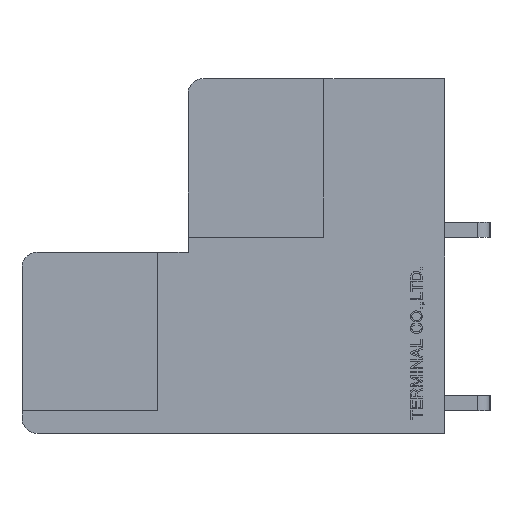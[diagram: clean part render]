
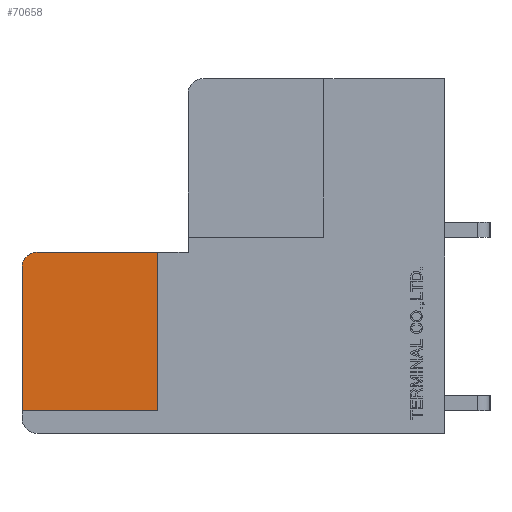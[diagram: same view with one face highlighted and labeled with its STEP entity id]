
A CAD part, left-side view. The second image highlights one B-rep face of the part: STEP entity #70658.
In plain terms, the highlighted planar face has unit normal (-1, 0, 0).
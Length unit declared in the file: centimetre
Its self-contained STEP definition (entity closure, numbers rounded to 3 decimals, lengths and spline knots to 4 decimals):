
#2711=VECTOR('',#75651,1.);
#2712=VECTOR('',#75652,1.);
#2713=VECTOR('',#75653,1.);
#2714=VECTOR('',#75654,1.);
#10738=LINE('',#89376,#2711);
#10739=LINE('',#89379,#2712);
#10740=LINE('',#89380,#2713);
#10741=LINE('',#89382,#2714);
#18560=PLANE('',#116200);
#21385=CIRCLE('',#116199,0.1);
#22393=VERTEX_POINT('',#89371);
#22394=VERTEX_POINT('',#89373);
#22395=VERTEX_POINT('',#89377);
#22396=VERTEX_POINT('',#89378);
#22397=VERTEX_POINT('',#89381);
#29866=EDGE_CURVE('',#22393,#22394,#21385,.T.);
#29868=EDGE_CURVE('',#22395,#22396,#10738,.T.);
#29869=EDGE_CURVE('',#22394,#22395,#10739,.T.);
#29870=EDGE_CURVE('',#22397,#22393,#10740,.T.);
#29871=EDGE_CURVE('',#22396,#22397,#10741,.T.);
#41000=ORIENTED_EDGE('',*,*,#29868,.F.);
#41001=ORIENTED_EDGE('',*,*,#29869,.F.);
#41002=ORIENTED_EDGE('',*,*,#29866,.F.);
#41003=ORIENTED_EDGE('',*,*,#29870,.F.);
#41004=ORIENTED_EDGE('',*,*,#29871,.F.);
#61761=EDGE_LOOP('',(#41000,#41001,#41002,#41003,#41004));
#66220=FACE_BOUND('',#61761,.T.);
#70658=ADVANCED_FACE('',(#66220),#18560,.F.);
#75647=DIRECTION('',(1.,0.,0.));
#75648=DIRECTION('',(0.,0.,-0.1));
#75650=DIRECTION('',(1.,0.,0.));
#75651=DIRECTION('',(0.,0.,-1.));
#75652=DIRECTION('',(0.,-1.,0.));
#75653=DIRECTION('',(0.,0.,1.));
#75654=DIRECTION('',(0.,1.,0.));
#89371=CARTESIAN_POINT('',(-1.1,2.8,1.1));
#89372=CARTESIAN_POINT('',(-1.1,2.7,1.1));
#89373=CARTESIAN_POINT('',(-1.1,2.7,1.2));
#89375=CARTESIAN_POINT('',(-1.1,1.3846,0.6));
#89376=CARTESIAN_POINT('',(-1.1,1.9,0.15));
#89377=CARTESIAN_POINT('',(-1.1,1.9,1.2));
#89378=CARTESIAN_POINT('',(-1.1,1.9,0.15));
#89379=CARTESIAN_POINT('',(-1.1,2.7,1.2));
#89380=CARTESIAN_POINT('',(-1.1,2.8,0.1));
#89381=CARTESIAN_POINT('',(-1.1,2.8,0.15));
#89382=CARTESIAN_POINT('',(-1.1,2.8,0.15));
#116199=AXIS2_PLACEMENT_3D('',#89372,#75647,#75648);
#116200=AXIS2_PLACEMENT_3D('',#89375,#75650,$);
